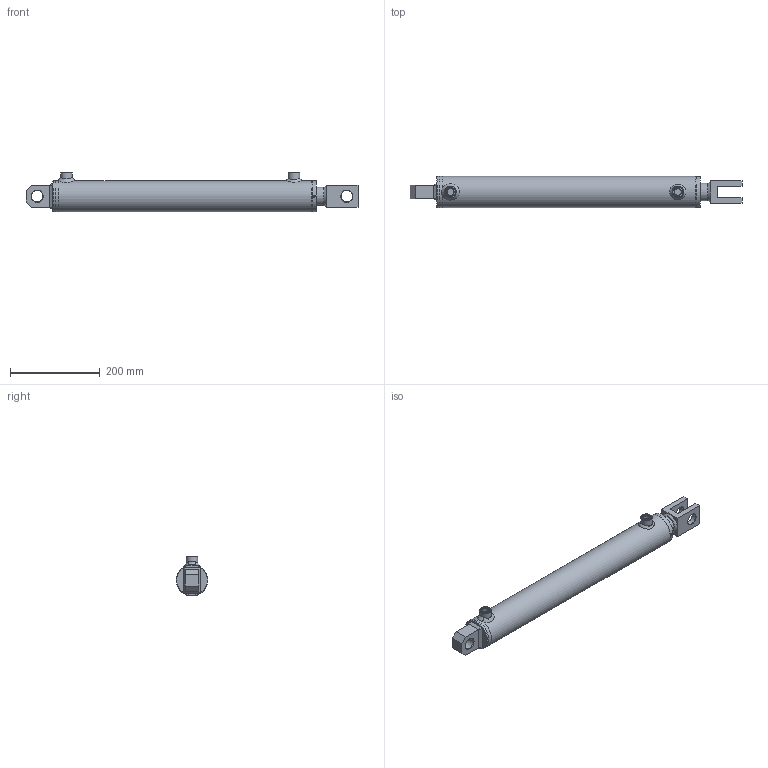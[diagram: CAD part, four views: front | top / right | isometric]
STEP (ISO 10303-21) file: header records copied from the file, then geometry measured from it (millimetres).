
FILE_DESCRIPTION( ( 'Unknown' ), '1' );
FILE_NAME( 'E:/LIBRERIA_3d/CILINDRI/HM5/HM53400450.stp', 'Unknown', ( 'Unknown' ), ( 'Unknown' ), 'PSStep 17.0.49', 'Unknown', ' ' );
FILE_SCHEMA( ( 'AUTOMOTIVE_DESIGN { 1 0 10303 214 1 1 1 1 }' ) );
Length unit declared in the file: millimetre
Products named in the file (29): CG07006040; STL3500450-oa7; Saldatura d'angolo 1-oa5; FTM3500450-oa6; CBSC220600; CT00060027; HM03400450; Saldatura con preparazione 1-oa3; Saldatura d'angolo 1-oa4; CF00060070; CBS0600000; APG0600000; CDB0002720; SBL4040450; Assem1; CSCS004010; COF2500000; CFS0000025; Saldatura d'angolo 1-oa0; Saldatura con preparazione 1-oa1; Saldatura d'angolo 2-oa2
Assembly tree (22 placements, depth 4):
  Saldatura d'angolo 1-oa5
  Saldatura d'angolo 1-oa5
  Saldatura d'angolo 1-oa4
  Saldatura d'angolo 1-oa4
  Assem1
    CSCS004010  x2
    COF2500000
    CFS0000025
    Saldatura con preparazione 1-oa1
    Saldatura con preparazione 1-oa1
    HM03400450
      Saldatura con preparazione 1-oa3
      Saldatura con preparazione 1-oa3
      CF00060070
      CBS0600000
      APG0600000  x2
      CDB0002720
      SBL4040450
      CG07006040
        CG07006040
      CT00060027
        CT00060027
      STL3500450-oa7
        FTM3500450-oa6
        CBSC220600
Bounding box: 740 x 70 x 89 mm (x, y, z)
Volume: 1692128.9 mm3; surface area: 441578 mm2
Topology: 26 solids, 26 shells, 290 faces, 621 edges, 382 vertices
Faces by surface type: plane 98, cylinder 70, cone 48, torus 38, bspline 36
Full cylindrical faces by diameter (mm): 4.25 x3, 5 x2, 6 x2, 7 x2, 14.95 x2, 16 x2, 16.6 x2, 22 x2, 25.25 x3, 26 x2, 26.4 x1, 27 x5, 33.2 x1, 40 x8, 41 x1, 42 x1, 43 x1, 44 x1, 48 x1, 48.6 x1, 55 x1, 55.39 x2, 58.65 x2, 59.9 x1, 60 x1, 60.3 x1, 60.5 x1, 60.6 x1, 61 x1, 62 x3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
Entity records: 12296 total; most frequent: CARTESIAN_POINT 5085, DIRECTION 1028, ORIENTED_EDGE 748, EDGE_LOOP 470, AXIS2_PLACEMENT_3D 466, FACE_OUTER_BOUND 376, EDGE_CURVE 374, VERTEX_POINT 309
